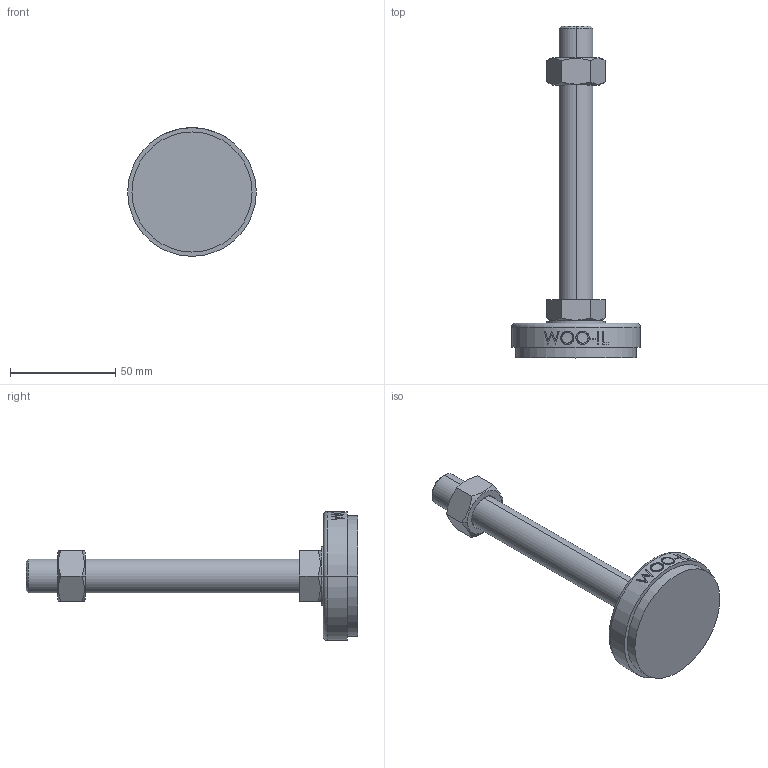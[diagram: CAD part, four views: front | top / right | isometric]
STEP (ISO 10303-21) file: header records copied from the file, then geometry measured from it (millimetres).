
FILE_DESCRIPTION (( 'STEP AP214' ), '1' );
FILE_NAME ('NS61-M16-130.step', '2021-01-11T05:45:38', ( '' ), ( '' ), 'SwSTEP 2.0', 'SolidWorks 2019', '' );
FILE_SCHEMA (( 'AUTOMOTIVE_DESIGN' ));
Length unit declared in the file: millimetre
Products named in the file (2): NS61-M16-130
Bounding box: 61 x 157.5 x 61 mm (x, y, z)
Volume: 81649.6 mm3; surface area: 19388.9 mm2
Topology: 3 solids, 3 shells, 96 faces, 223 edges, 144 vertices
Faces by surface type: plane 48, cylinder 18, bspline 16, cone 12, torus 2
Entity records: 4252 total; most frequent: CARTESIAN_POINT 2127, ORIENTED_EDGE 446, DIRECTION 381, EDGE_CURVE 223, VERTEX_POINT 144, AXIS2_PLACEMENT_3D 142, EDGE_LOOP 109, LINE 97
